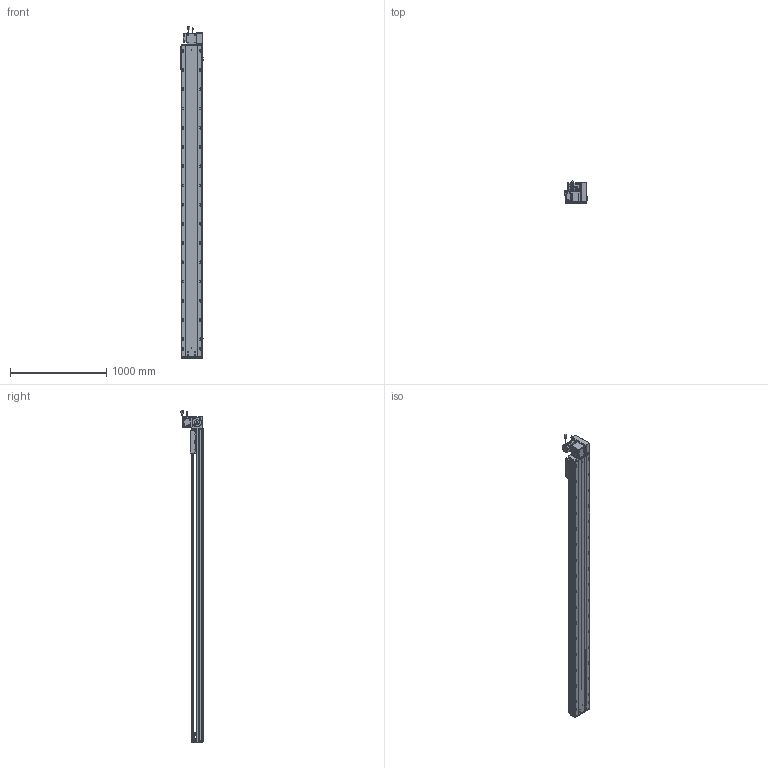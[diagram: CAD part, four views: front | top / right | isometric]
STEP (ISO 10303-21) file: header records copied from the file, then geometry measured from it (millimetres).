
FILE_DESCRIPTION (( 'STEP AP203' ), '1' );
FILE_NAME ('RY220-T-300-UR.SLDASM_2900.step', '2022-07-25T08:46:00', ( '' ), ( '' ), 'SwSTEP 2.0', 'SolidWorks 2016', '' );
FILE_SCHEMA (( 'CONFIG_CONTROL_DESIGN' ));
Length unit declared in the file: millimetre
Products named in the file (14): RY220翋肮祭謫裔啣; RY220-俋离672覜茼んえ; RY220-同步轮副支撑座6304×2; RY220-T-300-奻裔啣_2900; 110A-T-肮祭謫釱傷裔; RY220翋肮祭謫釱; 覜茼ん672; 怢湛750W_ECMA-CX0807ES; RY220-T-蛌殏萇儂假蚾啣(750W); RY220-T-湍謫欶(鍼踢); RY220圉猾敕々湍臏賑輸; 滅袉蝶18-15; RY220-T菁釱-300_2900; RY220-T-300-UR.SLDASM_2900
Assembly tree (18 placements, depth 2):
  RY220-T-300-UR.SLDASM_2900
    RY220-T菁釱-300_2900
    RY220翋肮祭謫釱
    覜茼ん672  x3
    RY220圉猾敕々湍臏賑輸
    RY220-T-300-奻裔啣_2900
    RY220-俋离672覜茼んえ
    滅袉蝶18-15  x3
    RY220翋肮祭謫裔啣  x2
    110A-T-肮祭謫釱傷裔
    怢湛750W_ECMA-CX0807ES
    RY220-T-湍謫欶(鍼踢)
    RY220-T-蛌殏萇儂假蚾啣(750W)
    RY220-同步轮副支撑座6304×2
Bounding box: 238.7 x 231.74 x 3453.27 mm (x, y, z)
Volume: 24554763 mm3; surface area: 7588382.2 mm2
Topology: 19 solids, 19 shells, 3012 faces, 8335 edges, 5220 vertices
Faces by surface type: cylinder 1488, plane 1069, cone 373, bspline 56, sphere 16, torus 10
Entity records: 100515 total; most frequent: CARTESIAN_POINT 28367, ORIENTED_EDGE 14906, DIRECTION 14396, EDGE_CURVE 7453, AXIS2_PLACEMENT_3D 5198, VERTEX_POINT 4844, LINE 4000, VECTOR 4000
